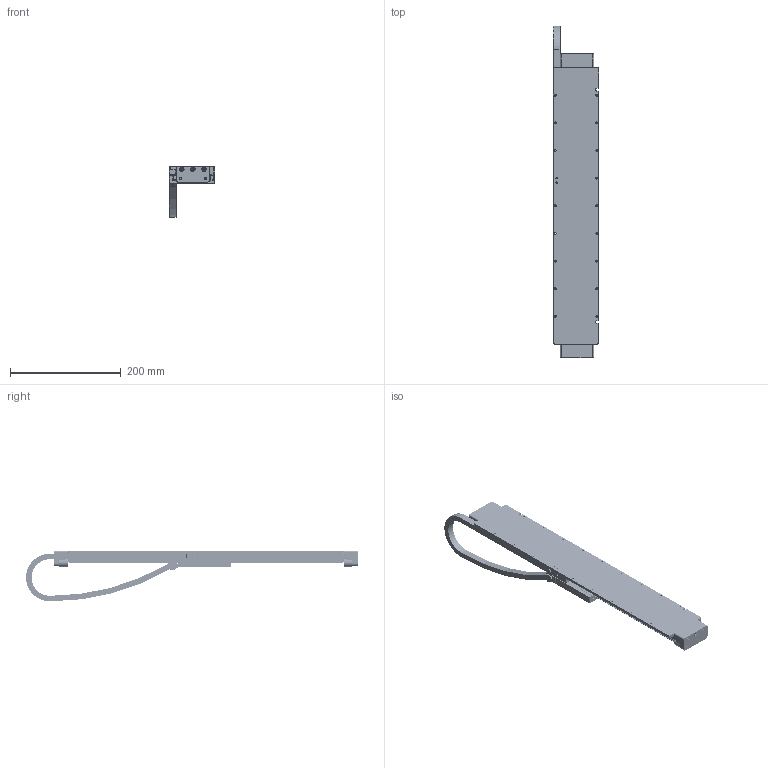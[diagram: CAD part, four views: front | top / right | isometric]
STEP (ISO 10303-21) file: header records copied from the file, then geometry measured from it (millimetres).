
FILE_DESCRIPTION (( 'STEP AP214' ), '1' );
FILE_NAME ('MLL-82500.STEP', '2023-11-02T08:05:25', ( 'Name' ), ( 'SmarAct GmbH' ), 'SwSTEP 2.0', 'SolidWorks 2021', '' );
FILE_SCHEMA (( 'AUTOMOTIVE_DESIGN' ));
Length unit declared in the file: millimetre
Products named in the file (16): 10011847_EX; 10006933_00_Parent; 10006934_00_Parent; ISO 4762 M3 x 5 - 3.5N-A2_ISO 4762 M3 x 5 - 3.5N-A2; ISO 4762 M2 x 4 - 2.8N-A2_ISO 4762 M2 x 4 - 2.8N-A2; ISO 7046-1-M3 X 4-4-Z-A2_ISO 7046-1-M3 X 4-4-Z-A2; 10011851_00_Parent; ISO 4762 M2 x 12 - 10.8N-A2_ISO 4762 M2 x 12 - 10.8N-A2; 10012228^EX22100474_00_Parent; MLL-82500; 10011852_00_Parent; ISO 4762 M4 x 25 - 22.9N-A2_ISO 4762 M4 x 25 - 22.9N-A2; 10012969_Beweglich ; 10009396_EX; 10011848_00_Parent; 10006925_00_Parent
Assembly tree (99 placements, depth 2):
  MLL-82500
    10009396_EX
    10011847_EX
    10006925_00_Parent  x4
    10011848_00_Parent  x2
    10006934_00_Parent  x2
    10006933_00_Parent  x4
    10011851_00_Parent
    10011852_00_Parent  x2
    10012228^EX22100474_00_Parent
    10012969_Beweglich 
    ISO 7046-1-M3 X 4-4-Z-A2_ISO 7046-1-M3 X 4-4-Z-A2  x4
    ISO 4762 M3 x 5 - 3.5N-A2_ISO 4762 M3 x 5 - 3.5N-A2  x66
    ISO 4762 M2 x 4 - 2.8N-A2_ISO 4762 M2 x 4 - 2.8N-A2  x2
    ISO 4762 M4 x 25 - 22.9N-A2_ISO 4762 M4 x 25 - 22.9N-A2  x6
    ISO 4762 M2 x 12 - 10.8N-A2_ISO 4762 M2 x 12 - 10.8N-A2  x2
Bounding box: 82.15 x 600.29 x 91.5 mm (x, y, z)
Volume: 839521.5 mm3; surface area: 269754.5 mm2
Topology: 98 solids, 102 shells, 4003 faces, 9253 edges, 5525 vertices
Faces by surface type: plane 1821, cylinder 1224, cone 646, torus 312
Entity records: 44564 total; most frequent: DIRECTION 7588, CARTESIAN_POINT 6841, ORIENTED_EDGE 6386, EDGE_CURVE 3197, AXIS2_PLACEMENT_3D 2956, VERTEX_POINT 2059, EDGE_LOOP 1704, VECTOR 1676
